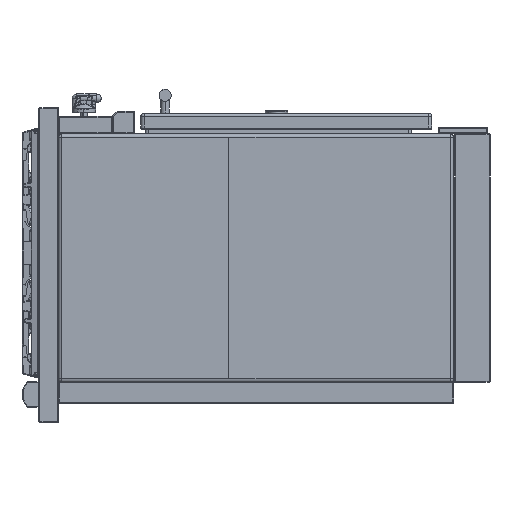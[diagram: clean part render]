
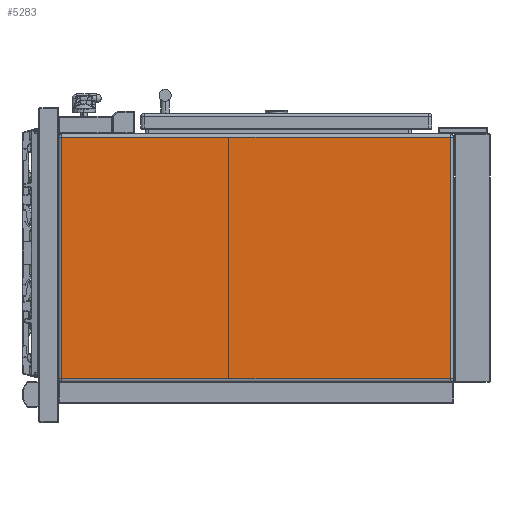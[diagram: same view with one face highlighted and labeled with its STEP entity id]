
A CAD part, left-side view. The second image highlights one B-rep face of the part: STEP entity #5283.
In plain terms, the highlighted planar face has unit normal (-1, 0, 0).
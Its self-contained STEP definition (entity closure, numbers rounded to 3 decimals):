
#522=DIRECTION('',(0.,1.,0.));
#523=VECTOR('',#522,801.);
#524=CARTESIAN_POINT('',(-900.,82.,249.));
#525=LINE('',#524,#523);
#526=DIRECTION('',(0.,0.,1.));
#527=VECTOR('',#526,498.);
#528=CARTESIAN_POINT('',(-900.,82.,-249.));
#529=LINE('',#528,#527);
#530=DIRECTION('',(0.,-1.,0.));
#531=VECTOR('',#530,801.);
#532=CARTESIAN_POINT('',(-900.,883.,-249.));
#533=LINE('',#532,#531);
#534=DIRECTION('',(0.,0.,-1.));
#535=VECTOR('',#534,498.);
#536=CARTESIAN_POINT('',(-900.,883.,249.));
#537=LINE('',#536,#535);
#3752=CARTESIAN_POINT('',(-900.,82.,249.));
#3753=CARTESIAN_POINT('',(-900.,883.,249.));
#3754=VERTEX_POINT('',#3752);
#3755=VERTEX_POINT('',#3753);
#3756=CARTESIAN_POINT('',(-900.,82.,-249.));
#3757=VERTEX_POINT('',#3756);
#3774=CARTESIAN_POINT('',(-900.,883.,-249.));
#3775=VERTEX_POINT('',#3774);
#5270=CARTESIAN_POINT('',(-900.,0.,0.));
#5271=DIRECTION('',(1.,0.,0.));
#5272=DIRECTION('',(0.,0.,-1.));
#5273=AXIS2_PLACEMENT_3D('',#5270,#5271,#5272);
#5274=PLANE('',#5273);
#5275=ORIENTED_EDGE('',*,*,#5236,.F.);
#5276=ORIENTED_EDGE('',*,*,#5260,.F.);
#5278=ORIENTED_EDGE('',*,*,#5277,.F.);
#5280=ORIENTED_EDGE('',*,*,#5279,.F.);
#5281=EDGE_LOOP('',(#5275,#5276,#5278,#5280));
#5282=FACE_OUTER_BOUND('',#5281,.F.);
#5236=EDGE_CURVE('',#3754,#3755,#525,.T.);
#5260=EDGE_CURVE('',#3757,#3754,#529,.T.);
#5277=EDGE_CURVE('',#3775,#3757,#533,.T.);
#5279=EDGE_CURVE('',#3755,#3775,#537,.T.);
#5283=ADVANCED_FACE('',(#5282),#5274,.F.);
